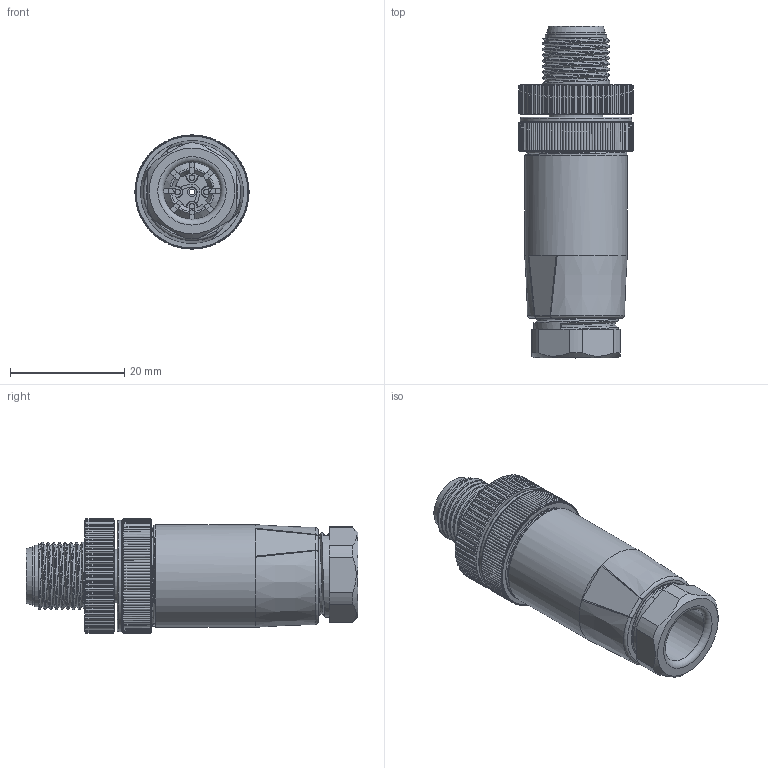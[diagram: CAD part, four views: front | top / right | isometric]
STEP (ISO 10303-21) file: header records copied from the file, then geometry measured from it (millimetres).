
FILE_DESCRIPTION(/* description */ (''),/* implementation_level */ '2;1');
FILE_NAME(/* name */ 'M12D-4MS-PG9.stp',/* time_stamp */ '2024-08-14T14:06:39+08:00',/* author */ (''),/* organization */ (''),/* preprocessor_version */ 'ST-DEVELOPER v16.7',/* originating_system */ 'SIEMENS PLM Software NX 12.0',/* authorisation */ '');
FILE_SCHEMA (('AP203_CONFIGURATION_CONTROLLED_3D_DESIGN_OF_MECHANICAL_PARTS_AND_ASSEMBLIES_MIM_LF { 1 0 10303 403 2 1 2}'));
Products named in the file (1): lyj280CC4F66wqv
Bounding box: 20 x 58.18 x 20 mm (x, y, z)
Volume: 8071.8 mm3; surface area: 12170.8 mm2
Topology: 1 solids, 13 shells, 1312 faces, 3287 edges, 2019 vertices
Faces by surface type: cylinder 426, cone 408, plane 367, bspline 55, extrusion 25, torus 21, sphere 10
Full cylindrical faces by diameter (mm): 1 x13, 1.2 x8, 1.4 x4, 1.5 x13, 2 x4, 2.2 x4, 8.3 x2, 9.4 x1, 9.8 x1, 10 x2, 10.2 x1, 10.8 x1, 11.3 x1, 11.6 x1, 13.2 x1, 13.8 x1, 14.3 x1, 14.4 x1, 14.7 x1, 15 x1, 15.8 x1, 16.7 x1, 18 x1, 19.6 x1
Entity records: 64715 total; most frequent: CARTESIAN_POINT 35151, ORIENTED_EDGE 6284, DIRECTION 5838, EDGE_CURVE 3142, AXIS2_PLACEMENT_3D 2382, VERTEX_POINT 1969, EDGE_LOOP 1479, ADVANCED_FACE 1312
